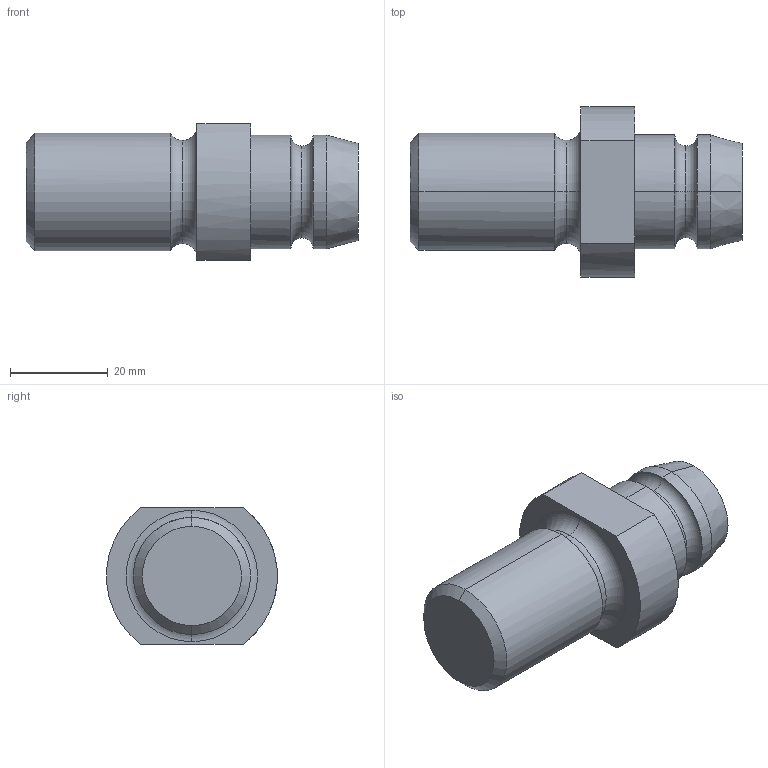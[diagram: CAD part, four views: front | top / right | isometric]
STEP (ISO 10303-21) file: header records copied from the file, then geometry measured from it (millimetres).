
FILE_DESCRIPTION(('CATIA V5 STEP Exchange'),'2;1');
FILE_NAME('C:\Users\Utente\Desktop\IO LAVORO\3D X SITO CF\X SITO\PLASTICA\AGS\AGS3411M24.stp','2021-02-21T19:27:30+00:00',('none'),('none'),'CATIA Version 5 Release 20 GA (IN-10)','CATIA V5 STEP AP203','none');
FILE_SCHEMA(('CONFIG_CONTROL_DESIGN'));
Length unit declared in the file: millimetre
Products named in the file (1): AGS3411M24
Bounding box: 68 x 34.92 x 28 mm (x, y, z)
Volume: 33308.3 mm3; surface area: 7072.6 mm2
Topology: 1 solids, 1 shells, 26 faces, 70 edges, 48 vertices
Faces by surface type: cylinder 8, torus 8, plane 6, cone 4
Entity records: 920 total; most frequent: CARTESIAN_POINT 235, ORIENTED_EDGE 140, DIRECTION 113, AXIS2_PLACEMENT_3D 70, EDGE_CURVE 70, VERTEX_POINT 48, CIRCLE 43, EDGE_LOOP 28
